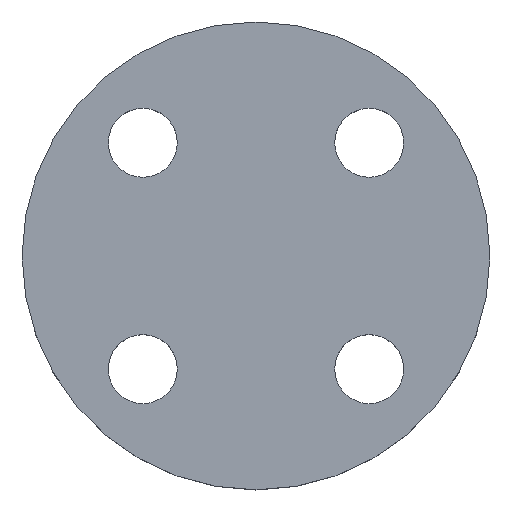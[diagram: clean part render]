
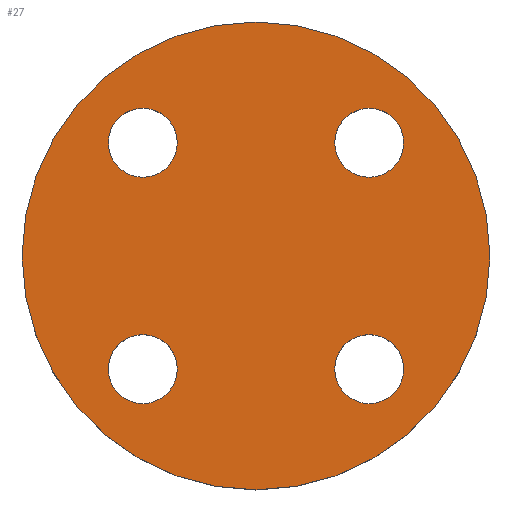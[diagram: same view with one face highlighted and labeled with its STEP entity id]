
A CAD part, top view. The second image highlights one B-rep face of the part: STEP entity #27.
In plain terms, the highlighted planar face has unit normal (0, 0, 1).
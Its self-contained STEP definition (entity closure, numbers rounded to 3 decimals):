
#1 = AXIS2_PLACEMENT_3D ( 'NONE', #663, #664, #665 ) ;
#7 = EDGE_CURVE ( 'NONE', #494, #353, #148, .T. ) ;
#11 = CIRCLE ( 'NONE', #26, 7. ) ;
#22 = AXIS2_PLACEMENT_3D ( 'NONE', #622, #624, #625 ) ;
#24 = EDGE_CURVE ( 'NONE', #474, #498, #309, .T. ) ;
#26 = AXIS2_PLACEMENT_3D ( 'NONE', #227, #229, #231 ) ;
#27 = ADVANCED_FACE ( 'NONE', ( #544, #545, #546, #548, #549 ), #550, .T. ) ;
#49 = AXIS2_PLACEMENT_3D ( 'NONE', #117, #125, #114 ) ;
#58 = CIRCLE ( 'NONE', #64, 7. ) ;
#64 = AXIS2_PLACEMENT_3D ( 'NONE', #216, #220, #223 ) ;
#73 = AXIS2_PLACEMENT_3D ( 'NONE', #607, #620, #621 ) ;
#81 = CIRCLE ( 'NONE', #73, 7. ) ;
#102 = AXIS2_PLACEMENT_3D ( 'NONE', #601, #605, #606 ) ;
#105 = CIRCLE ( 'NONE', #102, 7. ) ;
#114 = DIRECTION ( 'NONE',  ( -1., 0., 0. ) ) ;
#117 = CARTESIAN_POINT ( 'NONE',  ( -22.981, -22.981, 0. ) ) ;
#125 = DIRECTION ( 'NONE',  ( 0., 0., -1. ) ) ;
#133 = EDGE_CURVE ( 'NONE', #485, #440, #105, .T. ) ;
#138 = EDGE_CURVE ( 'NONE', #333, #463, #81, .T. ) ;
#146 = CIRCLE ( 'NONE', #49, 7. ) ;
#148 = CIRCLE ( 'NONE', #319, 7. ) ;
#154 = EDGE_CURVE ( 'NONE', #483, #443, #643, .T. ) ;
#157 = AXIS2_PLACEMENT_3D ( 'NONE', #162, #164, #165 ) ;
#162 = CARTESIAN_POINT ( 'NONE',  ( 0., 0., 0. ) ) ;
#164 = DIRECTION ( 'NONE',  ( 0., 0., 1. ) ) ;
#165 = DIRECTION ( 'NONE',  ( 1., 0., 0. ) ) ;
#166 = CIRCLE ( 'NONE', #157, 47.5 ) ;
#175 = CARTESIAN_POINT ( 'NONE',  ( 15.981, 22.981, 0. ) ) ;
#188 = CARTESIAN_POINT ( 'NONE',  ( 29.981, -22.981, 0. ) ) ;
#216 = CARTESIAN_POINT ( 'NONE',  ( 22.981, -22.981, 0. ) ) ;
#220 = DIRECTION ( 'NONE',  ( 0., 0., -1. ) ) ;
#223 = DIRECTION ( 'NONE',  ( -1., 0., 0. ) ) ;
#227 = CARTESIAN_POINT ( 'NONE',  ( 22.981, 22.981, 0. ) ) ;
#229 = DIRECTION ( 'NONE',  ( 0., 0., -1. ) ) ;
#231 = DIRECTION ( 'NONE',  ( -1., 0., 0. ) ) ;
#238 = CIRCLE ( 'NONE', #1, 7. ) ;
#242 = CARTESIAN_POINT ( 'NONE',  ( -15.981, 22.981, 0. ) ) ;
#243 = CARTESIAN_POINT ( 'NONE',  ( -47.5, 0., 0. ) ) ;
#252 = CARTESIAN_POINT ( 'NONE',  ( 29.981, 22.981, 0. ) ) ;
#254 = CARTESIAN_POINT ( 'NONE',  ( -15.981, -22.981, 0. ) ) ;
#260 = CARTESIAN_POINT ( 'NONE',  ( 47.5, 0., 0. ) ) ;
#273 = CARTESIAN_POINT ( 'NONE',  ( -29.981, 22.981, 0. ) ) ;
#281 = CARTESIAN_POINT ( 'NONE',  ( 15.981, -22.981, 0. ) ) ;
#284 = CARTESIAN_POINT ( 'NONE',  ( -29.981, -22.981, 0. ) ) ;
#304 = EDGE_CURVE ( 'NONE', #440, #485, #238, .T. ) ;
#306 = AXIS2_PLACEMENT_3D ( 'NONE', #551, #554, #555 ) ;
#308 = AXIS2_PLACEMENT_3D ( 'NONE', #541, #542, #543 ) ;
#309 = CIRCLE ( 'NONE', #308, 7. ) ;
#319 = AXIS2_PLACEMENT_3D ( 'NONE', #509, #510, #511 ) ;
#326 = EDGE_CURVE ( 'NONE', #443, #483, #166, .T. ) ;
#333 = VERTEX_POINT ( 'NONE', #175 ) ;
#344 = EDGE_LOOP ( 'NONE', ( #410, #412 ) ) ;
#345 = EDGE_LOOP ( 'NONE', ( #420, #421 ) ) ;
#353 = VERTEX_POINT ( 'NONE', #188 ) ;
#359 = EDGE_LOOP ( 'NONE', ( #413, #414 ) ) ;
#387 = EDGE_LOOP ( 'NONE', ( #415, #416 ) ) ;
#410 = ORIENTED_EDGE ( 'NONE', *, *, #425, .T. ) ;
#412 = ORIENTED_EDGE ( 'NONE', *, *, #7, .T. ) ;
#413 = ORIENTED_EDGE ( 'NONE', *, *, #24, .T. ) ;
#414 = ORIENTED_EDGE ( 'NONE', *, *, #547, .T. ) ;
#415 = ORIENTED_EDGE ( 'NONE', *, *, #304, .T. ) ;
#416 = ORIENTED_EDGE ( 'NONE', *, *, #133, .T. ) ;
#417 = ORIENTED_EDGE ( 'NONE', *, *, #431, .T. ) ;
#419 = ORIENTED_EDGE ( 'NONE', *, *, #138, .T. ) ;
#420 = ORIENTED_EDGE ( 'NONE', *, *, #154, .T. ) ;
#421 = ORIENTED_EDGE ( 'NONE', *, *, #326, .T. ) ;
#425 = EDGE_CURVE ( 'NONE', #353, #494, #58, .T. ) ;
#431 = EDGE_CURVE ( 'NONE', #463, #333, #11, .T. ) ;
#440 = VERTEX_POINT ( 'NONE', #242 ) ;
#443 = VERTEX_POINT ( 'NONE', #243 ) ;
#463 = VERTEX_POINT ( 'NONE', #252 ) ;
#474 = VERTEX_POINT ( 'NONE', #254 ) ;
#481 = EDGE_LOOP ( 'NONE', ( #417, #419 ) ) ;
#483 = VERTEX_POINT ( 'NONE', #260 ) ;
#485 = VERTEX_POINT ( 'NONE', #273 ) ;
#494 = VERTEX_POINT ( 'NONE', #281 ) ;
#498 = VERTEX_POINT ( 'NONE', #284 ) ;
#509 = CARTESIAN_POINT ( 'NONE',  ( 22.981, -22.981, 0. ) ) ;
#510 = DIRECTION ( 'NONE',  ( 0., 0., -1. ) ) ;
#511 = DIRECTION ( 'NONE',  ( -1., 0., 0. ) ) ;
#541 = CARTESIAN_POINT ( 'NONE',  ( -22.981, -22.981, 0. ) ) ;
#542 = DIRECTION ( 'NONE',  ( 0., 0., -1. ) ) ;
#543 = DIRECTION ( 'NONE',  ( -1., 0., 0. ) ) ;
#544 = FACE_BOUND ( 'NONE', #344, .T. ) ;
#545 = FACE_BOUND ( 'NONE', #359, .T. ) ;
#546 = FACE_BOUND ( 'NONE', #387, .T. ) ;
#547 = EDGE_CURVE ( 'NONE', #498, #474, #146, .T. ) ;
#548 = FACE_BOUND ( 'NONE', #481, .T. ) ;
#549 = FACE_OUTER_BOUND ( 'NONE', #345, .T. ) ;
#550 = PLANE ( 'NONE',  #306 ) ;
#551 = CARTESIAN_POINT ( 'NONE',  ( 0., 0., 0. ) ) ;
#554 = DIRECTION ( 'NONE',  ( 0., 0., 1. ) ) ;
#555 = DIRECTION ( 'NONE',  ( 1., 0., 0. ) ) ;
#601 = CARTESIAN_POINT ( 'NONE',  ( -22.981, 22.981, 0. ) ) ;
#605 = DIRECTION ( 'NONE',  ( 0., 0., -1. ) ) ;
#606 = DIRECTION ( 'NONE',  ( -1., 0., 0. ) ) ;
#607 = CARTESIAN_POINT ( 'NONE',  ( 22.981, 22.981, 0. ) ) ;
#620 = DIRECTION ( 'NONE',  ( 0., 0., -1. ) ) ;
#621 = DIRECTION ( 'NONE',  ( -1., 0., 0. ) ) ;
#622 = CARTESIAN_POINT ( 'NONE',  ( 0., 0., 0. ) ) ;
#624 = DIRECTION ( 'NONE',  ( 0., 0., 1. ) ) ;
#625 = DIRECTION ( 'NONE',  ( 1., 0., 0. ) ) ;
#643 = CIRCLE ( 'NONE', #22, 47.5 ) ;
#663 = CARTESIAN_POINT ( 'NONE',  ( -22.981, 22.981, 0. ) ) ;
#664 = DIRECTION ( 'NONE',  ( 0., 0., -1. ) ) ;
#665 = DIRECTION ( 'NONE',  ( -1., 0., 0. ) ) ;
